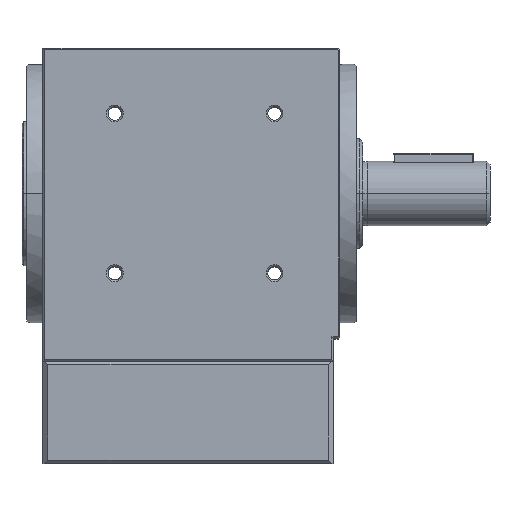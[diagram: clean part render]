
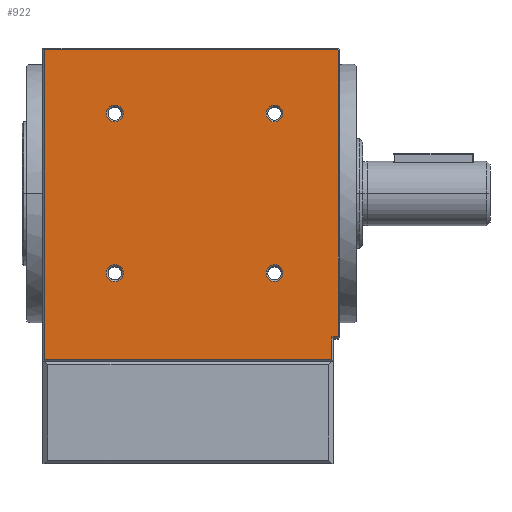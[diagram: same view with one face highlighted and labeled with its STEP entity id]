
A CAD part, top view. The second image highlights one B-rep face of the part: STEP entity #922.
In plain terms, the highlighted planar face has unit normal (0, 0, 1).
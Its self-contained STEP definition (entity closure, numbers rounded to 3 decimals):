
#57 = CARTESIAN_POINT ( 'NONE',  ( 945.037, -945.037, 45. ) ) ;
#123 = CARTESIAN_POINT ( 'NONE',  ( 2136.837, 288.659, 45. ) ) ;
#164 = ORIENTED_EDGE ( 'NONE', *, *, #7304, .T. ) ;
#166 = VERTEX_POINT ( 'NONE', #5251 ) ;
#179 = EDGE_LOOP ( 'NONE', ( #1198, #6126, #164, #2537, #6060, #598, #2579, #4554 ) ) ;
#347 = CARTESIAN_POINT ( 'NONE',  ( 2089.94, 288.659, 45. ) ) ;
#361 = CIRCLE ( 'NONE', #3014, 2.6 ) ;
#376 = LINE ( 'NONE', #2300, #6513 ) ;
#401 = EDGE_LOOP ( 'NONE', ( #1382, #2474 ) ) ;
#442 = VERTEX_POINT ( 'NONE', #123 ) ;
#448 = DIRECTION ( 'NONE',  ( -0.707, 0.707, 0. ) ) ;
#553 = CARTESIAN_POINT ( 'NONE',  ( 2157.189, 268.408, 45. ) ) ;
#598 = ORIENTED_EDGE ( 'NONE', *, *, #7409, .T. ) ;
#624 = CARTESIAN_POINT ( 'NONE',  ( 0., 268.908, 45. ) ) ;
#637 = VERTEX_POINT ( 'NONE', #2787 ) ;
#647 = AXIS2_PLACEMENT_3D ( 'NONE', #347, #4553, #953 ) ;
#661 = CARTESIAN_POINT ( 'NONE',  ( 2136.837, 338.157, 45. ) ) ;
#855 = CARTESIAN_POINT ( 'NONE',  ( 2159.189, 357.701, 45. ) ) ;
#922 = ADVANCED_FACE ( 'NONE', ( #4730, #4562, #2973, #1367, #7478 ), #7604, .T. ) ;
#937 = VECTOR ( 'NONE', #448, 1000. ) ;
#953 = DIRECTION ( 'NONE',  ( 1., 0., 0. ) ) ;
#955 = DIRECTION ( 'NONE',  ( 0., 0., -1. ) ) ;
#1029 = CARTESIAN_POINT ( 'NONE',  ( 2142.037, 288.659, 45. ) ) ;
#1030 = VERTEX_POINT ( 'NONE', #5066 ) ;
#1107 = CIRCLE ( 'NONE', #5920, 2.6 ) ;
#1133 = DIRECTION ( 'NONE',  ( 0., -1., 0. ) ) ;
#1198 = ORIENTED_EDGE ( 'NONE', *, *, #7204, .T. ) ;
#1303 = VERTEX_POINT ( 'NONE', #5652 ) ;
#1367 = FACE_BOUND ( 'NONE', #6280, .T. ) ;
#1382 = ORIENTED_EDGE ( 'NONE', *, *, #5548, .T. ) ;
#1530 = CARTESIAN_POINT ( 'NONE',  ( 2087.34, 338.157, 45. ) ) ;
#1579 = DIRECTION ( 'NONE',  ( 0., 1., 0. ) ) ;
#1602 = CIRCLE ( 'NONE', #7282, 2.6 ) ;
#1651 = DIRECTION ( 'NONE',  ( 1., 0., 0. ) ) ;
#1674 = CARTESIAN_POINT ( 'NONE',  ( 2089.94, 288.659, 45. ) ) ;
#1680 = DIRECTION ( 'NONE',  ( 0., 0., 1. ) ) ;
#1684 = CARTESIAN_POINT ( 'NONE',  ( 2067.689, 357.908, 45. ) ) ;
#1749 = ORIENTED_EDGE ( 'NONE', *, *, #7151, .T. ) ;
#1859 = AXIS2_PLACEMENT_3D ( 'NONE', #6575, #3061, #7175 ) ;
#1914 = DIRECTION ( 'NONE',  ( 0., 0., -1. ) ) ;
#1966 = LINE ( 'NONE', #3569, #6326 ) ;
#2078 = VERTEX_POINT ( 'NONE', #7224 ) ;
#2133 = DIRECTION ( 'NONE',  ( 0., 0., -1. ) ) ;
#2156 = CARTESIAN_POINT ( 'NONE',  ( 2068.189, 261.908, 45. ) ) ;
#2158 = CARTESIAN_POINT ( 'NONE',  ( 2092.54, 288.659, 45. ) ) ;
#2212 = VERTEX_POINT ( 'NONE', #6273 ) ;
#2229 = CARTESIAN_POINT ( 'NONE',  ( 2158.981, 357.908, 45. ) ) ;
#2238 = LINE ( 'NONE', #57, #3874 ) ;
#2273 = DIRECTION ( 'NONE',  ( 1., 0., 0. ) ) ;
#2300 = CARTESIAN_POINT ( 'NONE',  ( 2068.189, 261.408, 45. ) ) ;
#2313 = VERTEX_POINT ( 'NONE', #5218 ) ;
#2340 = LINE ( 'NONE', #1684, #5321 ) ;
#2474 = ORIENTED_EDGE ( 'NONE', *, *, #7017, .T. ) ;
#2482 = AXIS2_PLACEMENT_3D ( 'NONE', #5492, #1914, #6079 ) ;
#2528 = EDGE_LOOP ( 'NONE', ( #3654, #3572 ) ) ;
#2537 = ORIENTED_EDGE ( 'NONE', *, *, #7369, .T. ) ;
#2579 = ORIENTED_EDGE ( 'NONE', *, *, #7488, .T. ) ;
#2593 = AXIS2_PLACEMENT_3D ( 'NONE', #4712, #1680, #1651 ) ;
#2633 = LINE ( 'NONE', #624, #7159 ) ;
#2787 = CARTESIAN_POINT ( 'NONE',  ( 2142.037, 338.157, 45. ) ) ;
#2799 = CARTESIAN_POINT ( 'NONE',  ( 2159.189, 0., 45. ) ) ;
#2921 = VECTOR ( 'NONE', #1579, 1000. ) ;
#2973 = FACE_BOUND ( 'NONE', #401, .T. ) ;
#3014 = AXIS2_PLACEMENT_3D ( 'NONE', #5709, #2133, #6283 ) ;
#3061 = DIRECTION ( 'NONE',  ( 0., 0., -1. ) ) ;
#3252 = CARTESIAN_POINT ( 'NONE',  ( 2139.437, 338.157, 45. ) ) ;
#3369 = VERTEX_POINT ( 'NONE', #855 ) ;
#3394 = LINE ( 'NONE', #553, #6152 ) ;
#3420 = DIRECTION ( 'NONE',  ( 0., 0., -1. ) ) ;
#3487 = VERTEX_POINT ( 'NONE', #1029 ) ;
#3569 = CARTESIAN_POINT ( 'NONE',  ( 2157.689, 261.908, 45. ) ) ;
#3572 = ORIENTED_EDGE ( 'NONE', *, *, #6705, .T. ) ;
#3654 = ORIENTED_EDGE ( 'NONE', *, *, #6311, .T. ) ;
#3671 = DIRECTION ( 'NONE',  ( 0.707, 0.707, 0. ) ) ;
#3856 = DIRECTION ( 'NONE',  ( 1., 0., 0. ) ) ;
#3874 = VECTOR ( 'NONE', #3671, 1000. ) ;
#4068 = CARTESIAN_POINT ( 'NONE',  ( 1258.445, 1258.445, 45. ) ) ;
#4514 = LINE ( 'NONE', #2799, #2921 ) ;
#4553 = DIRECTION ( 'NONE',  ( 0., 0., -1. ) ) ;
#4554 = ORIENTED_EDGE ( 'NONE', *, *, #7539, .T. ) ;
#4556 = CARTESIAN_POINT ( 'NONE',  ( 2139.437, 338.157, 45. ) ) ;
#4562 = FACE_BOUND ( 'NONE', #7048, .T. ) ;
#4576 = ORIENTED_EDGE ( 'NONE', *, *, #5053, .T. ) ;
#4617 = CIRCLE ( 'NONE', #2482, 2.6 ) ;
#4660 = VERTEX_POINT ( 'NONE', #661 ) ;
#4712 = CARTESIAN_POINT ( 'NONE',  ( 0., 0., 45. ) ) ;
#4730 = FACE_OUTER_BOUND ( 'NONE', #179, .T. ) ;
#4808 = AXIS2_PLACEMENT_3D ( 'NONE', #6930, #3420, #7525 ) ;
#4815 = DIRECTION ( 'NONE',  ( 1., 0., 0. ) ) ;
#4951 = CIRCLE ( 'NONE', #5901, 2.6 ) ;
#5053 = EDGE_CURVE ( 'NONE', #5605, #7331, #4951, .T. ) ;
#5066 = CARTESIAN_POINT ( 'NONE',  ( 2068.189, 357.908, 45. ) ) ;
#5128 = DIRECTION ( 'NONE',  ( 1., 0., 0. ) ) ;
#5218 = CARTESIAN_POINT ( 'NONE',  ( 2159.189, 269.115, 45. ) ) ;
#5251 = CARTESIAN_POINT ( 'NONE',  ( 2157.189, 268.908, 45. ) ) ;
#5321 = VECTOR ( 'NONE', #5849, 1000. ) ;
#5492 = CARTESIAN_POINT ( 'NONE',  ( 2089.94, 338.157, 45. ) ) ;
#5511 = LINE ( 'NONE', #4068, #937 ) ;
#5548 = EDGE_CURVE ( 'NONE', #3487, #442, #361, .T. ) ;
#5605 = VERTEX_POINT ( 'NONE', #2158 ) ;
#5652 = CARTESIAN_POINT ( 'NONE',  ( 2092.54, 338.157, 45. ) ) ;
#5709 = CARTESIAN_POINT ( 'NONE',  ( 2139.437, 288.659, 45. ) ) ;
#5793 = CIRCLE ( 'NONE', #4808, 2.6 ) ;
#5842 = DIRECTION ( 'NONE',  ( 0., 0., -1. ) ) ;
#5849 = DIRECTION ( 'NONE',  ( -1., 0., 0. ) ) ;
#5851 = ORIENTED_EDGE ( 'NONE', *, *, #6856, .T. ) ;
#5901 = AXIS2_PLACEMENT_3D ( 'NONE', #1674, #5842, #2273 ) ;
#5920 = AXIS2_PLACEMENT_3D ( 'NONE', #4556, #955, #5128 ) ;
#5935 = EDGE_CURVE ( 'NONE', #637, #4660, #1107, .T. ) ;
#5942 = VERTEX_POINT ( 'NONE', #1530 ) ;
#5960 = VERTEX_POINT ( 'NONE', #2156 ) ;
#6052 = VERTEX_POINT ( 'NONE', #2229 ) ;
#6060 = ORIENTED_EDGE ( 'NONE', *, *, #7397, .T. ) ;
#6079 = DIRECTION ( 'NONE',  ( 1., 0., 0. ) ) ;
#6126 = ORIENTED_EDGE ( 'NONE', *, *, #7289, .T. ) ;
#6152 = VECTOR ( 'NONE', #7096, 1000. ) ;
#6273 = CARTESIAN_POINT ( 'NONE',  ( 2158.981, 268.908, 45. ) ) ;
#6280 = EDGE_LOOP ( 'NONE', ( #7476, #5851 ) ) ;
#6283 = DIRECTION ( 'NONE',  ( 1., 0., 0. ) ) ;
#6311 = EDGE_CURVE ( 'NONE', #1303, #5942, #4617, .T. ) ;
#6326 = VECTOR ( 'NONE', #7076, 1000. ) ;
#6422 = CIRCLE ( 'NONE', #647, 2.6 ) ;
#6429 = CARTESIAN_POINT ( 'NONE',  ( 2087.34, 288.659, 45. ) ) ;
#6513 = VECTOR ( 'NONE', #1133, 1000. ) ;
#6575 = CARTESIAN_POINT ( 'NONE',  ( 2089.94, 338.157, 45. ) ) ;
#6705 = EDGE_CURVE ( 'NONE', #5942, #1303, #7078, .T. ) ;
#6856 = EDGE_CURVE ( 'NONE', #4660, #637, #1602, .T. ) ;
#6930 = CARTESIAN_POINT ( 'NONE',  ( 2139.437, 288.659, 45. ) ) ;
#7017 = EDGE_CURVE ( 'NONE', #442, #3487, #5793, .T. ) ;
#7048 = EDGE_LOOP ( 'NONE', ( #4576, #1749 ) ) ;
#7076 = DIRECTION ( 'NONE',  ( 1., 0., 0. ) ) ;
#7078 = CIRCLE ( 'NONE', #1859, 2.6 ) ;
#7096 = DIRECTION ( 'NONE',  ( 0., 1., 0. ) ) ;
#7151 = EDGE_CURVE ( 'NONE', #7331, #5605, #6422, .T. ) ;
#7159 = VECTOR ( 'NONE', #4815, 1000. ) ;
#7175 = DIRECTION ( 'NONE',  ( 1., 0., 0. ) ) ;
#7204 = EDGE_CURVE ( 'NONE', #2313, #3369, #4514, .T. ) ;
#7224 = CARTESIAN_POINT ( 'NONE',  ( 2157.189, 261.908, 45. ) ) ;
#7282 = AXIS2_PLACEMENT_3D ( 'NONE', #3252, #7353, #3856 ) ;
#7289 = EDGE_CURVE ( 'NONE', #3369, #6052, #5511, .T. ) ;
#7304 = EDGE_CURVE ( 'NONE', #6052, #1030, #2340, .T. ) ;
#7331 = VERTEX_POINT ( 'NONE', #6429 ) ;
#7353 = DIRECTION ( 'NONE',  ( 0., 0., -1. ) ) ;
#7369 = EDGE_CURVE ( 'NONE', #1030, #5960, #376, .T. ) ;
#7397 = EDGE_CURVE ( 'NONE', #5960, #2078, #1966, .T. ) ;
#7409 = EDGE_CURVE ( 'NONE', #2078, #166, #3394, .T. ) ;
#7476 = ORIENTED_EDGE ( 'NONE', *, *, #5935, .T. ) ;
#7478 = FACE_BOUND ( 'NONE', #2528, .T. ) ;
#7488 = EDGE_CURVE ( 'NONE', #166, #2212, #2633, .T. ) ;
#7525 = DIRECTION ( 'NONE',  ( 1., 0., 0. ) ) ;
#7539 = EDGE_CURVE ( 'NONE', #2212, #2313, #2238, .T. ) ;
#7604 = PLANE ( 'NONE',  #2593 ) ;
